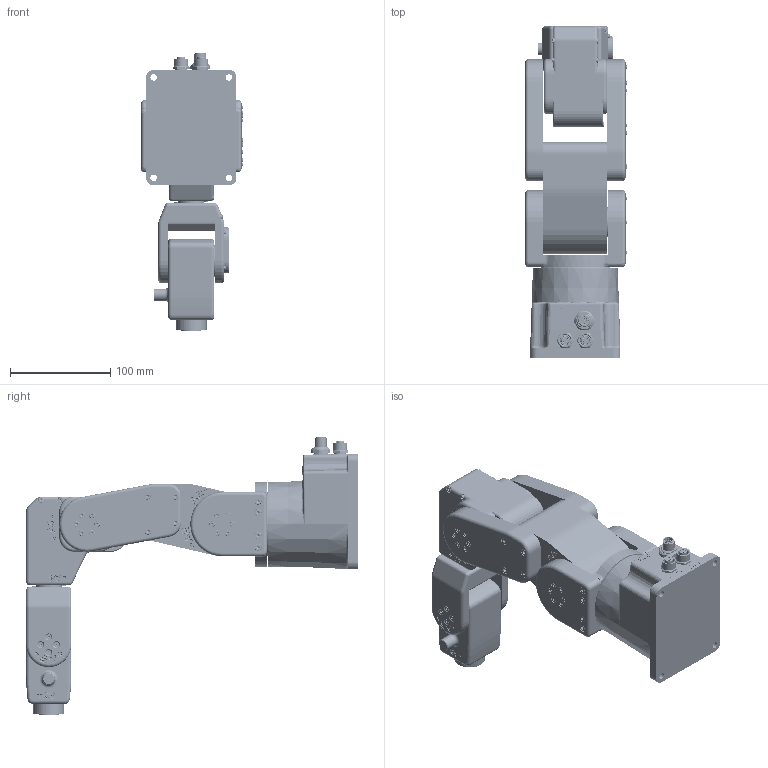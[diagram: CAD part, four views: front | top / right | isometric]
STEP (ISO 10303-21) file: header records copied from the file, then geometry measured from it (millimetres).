
FILE_DESCRIPTION(/* description */ (''),/* implementation_level */ '2;1');
FILE_NAME(/* name */ 'Meca500 assembled in zero robot position.stp',/* time_stamp */ '2024-07-18T08:23:06-04:00',/* author */ ('cbernier'),/* organization */ (''),/* preprocessor_version */ 'ST-DEVELOPER v20',/* originating_system */ 'Autodesk Inventor 2024',/* authorisation */ '');
FILE_SCHEMA (('AUTOMOTIVE_DESIGN { 1 0 10303 214 3 1 1 }'));
Products named in the file (8): MECA500_ZERO_ROBOT_POS; Axis1; Link 1; Link 2; Link 3; Link 4; Link 5; Link 6
Assembly tree (7 placements, depth 2):
  MECA500_ZERO_ROBOT_POS
    Axis1
    Link 1
    Link 2
    Link 3
    Link 4
    Link 5
    Link 6
Bounding box: 101.38 x 330.52 x 277.18 mm (x, y, z)
Volume: 2221963.7 mm3; surface area: 258032.7 mm2
Topology: 7 solids, 87 shells, 6748 faces, 16908 edges, 10662 vertices
Faces by surface type: plane 3283, bspline 1564, cylinder 1367, cone 240, torus 227, sphere 67
Full cylindrical faces by diameter (mm): 1 x5, 1.1 x8, 1.145 x6, 1.5 x8, 1.567 x6, 1.575 x4, 1.6 x16, 1.7 x18, 1.75 x16, 1.84 x16, 2 x22, 2.3 x1, 2.387 x8, 2.459 x4, 2.464 x8, 2.5 x13, 2.7 x2, 3 x51, 3.1 x2, 3.175 x2, 3.2 x39, 3.242 x6, 4 x20, 4.6 x14, 5.2 x8, 5.5 x39, 5.6 x2, 6 x34, 6.5 x4, 7 x12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
Entity records: 235886 total; most frequent: CARTESIAN_POINT 78767, ORIENTED_EDGE 33614, DIRECTION 26323, EDGE_CURVE 16807, VERTEX_POINT 10662, LINE 9707, VECTOR 9707, AXIS2_PLACEMENT_3D 8308
